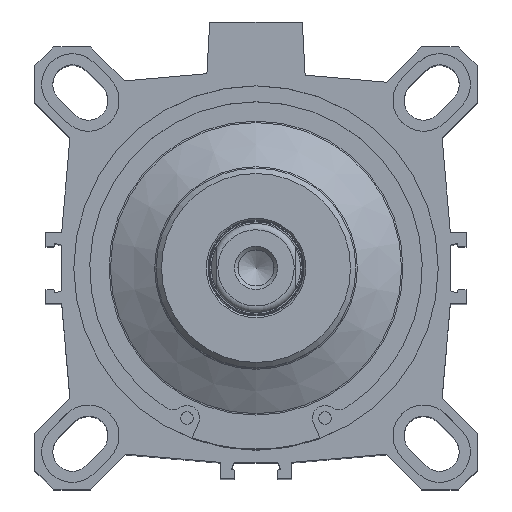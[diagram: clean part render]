
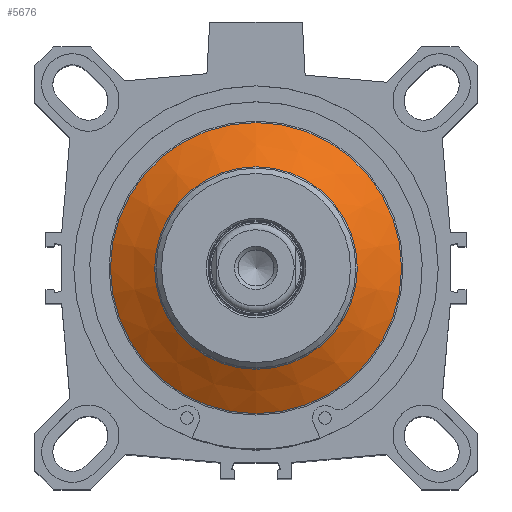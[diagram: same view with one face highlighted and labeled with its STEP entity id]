
A CAD part, top view. The second image highlights one B-rep face of the part: STEP entity #5676.
In plain terms, the highlighted conical face has half-angle 60 degrees and reference radius 34.607 mm.
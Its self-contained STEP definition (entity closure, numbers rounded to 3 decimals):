
#67=CONICAL_SURFACE('',#6105,34.607,1.047);
#1867=ORIENTED_EDGE('',*,*,#2444,.T.);
#1868=ORIENTED_EDGE('',*,*,#2443,.F.);
#2443=EDGE_CURVE('',#2835,#2835,#3034,.T.);
#2444=EDGE_CURVE('',#2836,#2836,#3035,.T.);
#2835=VERTEX_POINT('',#8596);
#2836=VERTEX_POINT('',#8599);
#3034=CIRCLE('',#6104,28.4);
#3035=CIRCLE('',#6106,40.814);
#3353=EDGE_LOOP('',(#1867));
#3354=EDGE_LOOP('',(#1868));
#3682=FACE_BOUND('',#3353,.T.);
#3683=FACE_BOUND('',#3354,.T.);
#5676=ADVANCED_FACE('',(#3682,#3683),#67,.T.);
#6104=AXIS2_PLACEMENT_3D('',#8595,#7251,#7252);
#6105=AXIS2_PLACEMENT_3D('',#8597,#7253,#7254);
#6106=AXIS2_PLACEMENT_3D('',#8598,#7255,#7256);
#7251=DIRECTION('',(0.,0.,1.));
#7252=DIRECTION('',(0.,1.,0.));
#7253=DIRECTION('',(0.,0.,-1.));
#7254=DIRECTION('',(0.,1.,0.));
#7255=DIRECTION('',(0.,0.,1.));
#7256=DIRECTION('',(0.,1.,0.));
#8595=CARTESIAN_POINT('',(0.,0.,104.125));
#8596=CARTESIAN_POINT('',(0.,28.4,104.125));
#8597=CARTESIAN_POINT('',(0.,0.,100.541));
#8598=CARTESIAN_POINT('',(0.,0.,96.957));
#8599=CARTESIAN_POINT('',(0.,40.814,96.957));
